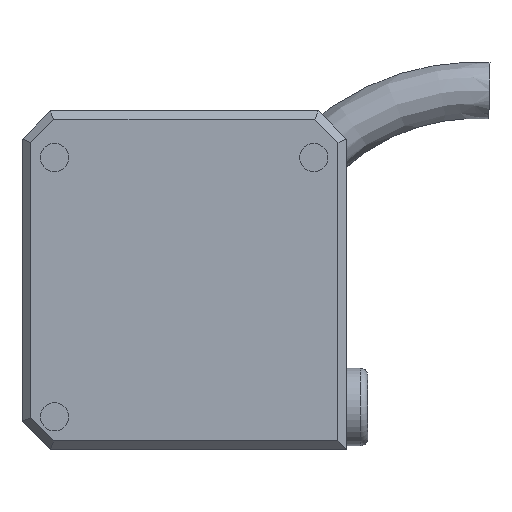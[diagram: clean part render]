
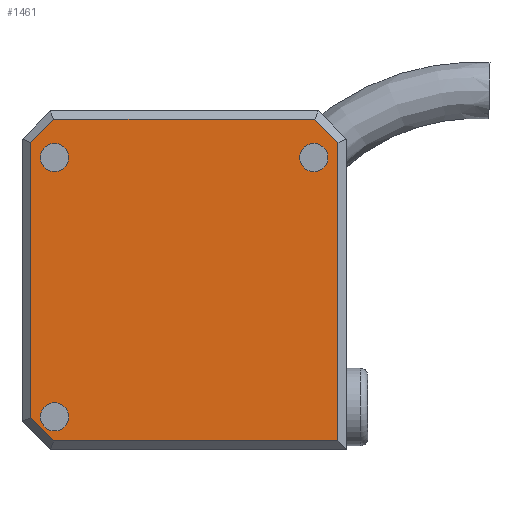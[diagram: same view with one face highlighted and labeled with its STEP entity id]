
A CAD part, front view. The second image highlights one B-rep face of the part: STEP entity #1461.
In plain terms, the highlighted planar face has unit normal (0, -1, 0).
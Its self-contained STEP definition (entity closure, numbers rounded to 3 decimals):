
#5 = VECTOR ( 'NONE', #183, 1000. ) ;
#12 = VERTEX_POINT ( 'NONE', #446 ) ;
#96 = CIRCLE ( 'NONE', #1003, 1. ) ;
#113 = EDGE_CURVE ( 'NONE', #1218, #580, #1539, .T. ) ;
#125 = CARTESIAN_POINT ( 'NONE',  ( 9.192, 0., 9.192 ) ) ;
#130 = ORIENTED_EDGE ( 'NONE', *, *, #211, .F. ) ;
#151 = LINE ( 'NONE', #1293, #228 ) ;
#164 = VECTOR ( 'NONE', #1515, 1000. ) ;
#167 = EDGE_LOOP ( 'NONE', ( #886, #1399 ) ) ;
#174 = CARTESIAN_POINT ( 'NONE',  ( 10.576, 0., 10.576 ) ) ;
#183 = DIRECTION ( 'NONE',  ( -0.707, 0., 0.707 ) ) ;
#205 = ORIENTED_EDGE ( 'NONE', *, *, #616, .T. ) ;
#211 = EDGE_CURVE ( 'NONE', #1274, #1556, #96, .T. ) ;
#212 = DIRECTION ( 'NONE',  ( 0., -1., 0. ) ) ;
#228 = VECTOR ( 'NONE', #530, 1000. ) ;
#264 = DIRECTION ( 'NONE',  ( 0., 0., -1. ) ) ;
#268 = VERTEX_POINT ( 'NONE', #856 ) ;
#286 = ORIENTED_EDGE ( 'NONE', *, *, #1107, .T. ) ;
#292 = CARTESIAN_POINT ( 'NONE',  ( 11.5, 0., -10.9 ) ) ;
#306 = CARTESIAN_POINT ( 'NONE',  ( -9.192, 0., -10.192 ) ) ;
#325 = AXIS2_PLACEMENT_3D ( 'NONE', #1137, #1243, #872 ) ;
#332 = DIRECTION ( 'NONE',  ( 0., 0., -1. ) ) ;
#346 = CARTESIAN_POINT ( 'NONE',  ( 9.192, 0., 8.192 ) ) ;
#353 = VECTOR ( 'NONE', #440, 1000. ) ;
#354 = CARTESIAN_POINT ( 'NONE',  ( -9.251, 0., -10.9 ) ) ;
#391 = AXIS2_PLACEMENT_3D ( 'NONE', #1299, #490, #860 ) ;
#395 = CIRCLE ( 'NONE', #1309, 1. ) ;
#428 = LINE ( 'NONE', #1554, #1246 ) ;
#440 = DIRECTION ( 'NONE',  ( 0., 0., -1. ) ) ;
#446 = CARTESIAN_POINT ( 'NONE',  ( -9.192, 0., 10.192 ) ) ;
#461 = FACE_BOUND ( 'NONE', #167, .T. ) ;
#473 = EDGE_CURVE ( 'NONE', #1255, #12, #875, .T. ) ;
#475 = VERTEX_POINT ( 'NONE', #970 ) ;
#483 = AXIS2_PLACEMENT_3D ( 'NONE', #705, #943, #1194 ) ;
#490 = DIRECTION ( 'NONE',  ( 0., 1., 0. ) ) ;
#521 = ORIENTED_EDGE ( 'NONE', *, *, #596, .T. ) ;
#530 = DIRECTION ( 'NONE',  ( -1., 0., 0. ) ) ;
#546 = VERTEX_POINT ( 'NONE', #738 ) ;
#580 = VERTEX_POINT ( 'NONE', #306 ) ;
#585 = CARTESIAN_POINT ( 'NONE',  ( -10.9, 0., -9.251 ) ) ;
#586 = ORIENTED_EDGE ( 'NONE', *, *, #1097, .T. ) ;
#596 = EDGE_CURVE ( 'NONE', #268, #1377, #1294, .T. ) ;
#616 = EDGE_CURVE ( 'NONE', #546, #1122, #1424, .T. ) ;
#660 = EDGE_LOOP ( 'NONE', ( #918, #1442 ) ) ;
#695 = DIRECTION ( 'NONE',  ( 0., 1., 0. ) ) ;
#696 = CARTESIAN_POINT ( 'NONE',  ( 9.192, 0., 10.192 ) ) ;
#705 = CARTESIAN_POINT ( 'NONE',  ( 0., 0., 0. ) ) ;
#738 = CARTESIAN_POINT ( 'NONE',  ( -9.251, 0., 11.9 ) ) ;
#750 = DIRECTION ( 'NONE',  ( 0., -1., 0. ) ) ;
#751 = EDGE_LOOP ( 'NONE', ( #1371, #130 ) ) ;
#784 = DIRECTION ( 'NONE',  ( 1., 0., 0. ) ) ;
#787 = DIRECTION ( 'NONE',  ( -0.707, 0., -0.707 ) ) ;
#830 = EDGE_CURVE ( 'NONE', #1529, #475, #997, .T. ) ;
#849 = EDGE_CURVE ( 'NONE', #12, #1255, #1001, .T. ) ;
#856 = CARTESIAN_POINT ( 'NONE',  ( 10.9, 0., 10.251 ) ) ;
#860 = DIRECTION ( 'NONE',  ( 0., 0., 1. ) ) ;
#872 = DIRECTION ( 'NONE',  ( 0., 0., 1. ) ) ;
#875 = CIRCLE ( 'NONE', #391, 1. ) ;
#886 = ORIENTED_EDGE ( 'NONE', *, *, #473, .T. ) ;
#890 = ORIENTED_EDGE ( 'NONE', *, *, #1103, .T. ) ;
#902 = CARTESIAN_POINT ( 'NONE',  ( -9.192, 0., -8.192 ) ) ;
#918 = ORIENTED_EDGE ( 'NONE', *, *, #1552, .T. ) ;
#932 = CARTESIAN_POINT ( 'NONE',  ( -9.192, 0., 8.192 ) ) ;
#943 = DIRECTION ( 'NONE',  ( 0., -1., 0. ) ) ;
#970 = CARTESIAN_POINT ( 'NONE',  ( 10.9, 0., -10.9 ) ) ;
#997 = LINE ( 'NONE', #292, #1587 ) ;
#1001 = CIRCLE ( 'NONE', #325, 1. ) ;
#1003 = AXIS2_PLACEMENT_3D ( 'NONE', #125, #750, #264 ) ;
#1026 = ORIENTED_EDGE ( 'NONE', *, *, #830, .T. ) ;
#1031 = CARTESIAN_POINT ( 'NONE',  ( -10.576, 0., 10.576 ) ) ;
#1038 = AXIS2_PLACEMENT_3D ( 'NONE', #1187, #695, #1324 ) ;
#1042 = CARTESIAN_POINT ( 'NONE',  ( -9.192, 0., -9.192 ) ) ;
#1053 = LINE ( 'NONE', #1401, #353 ) ;
#1091 = VECTOR ( 'NONE', #787, 1000. ) ;
#1097 = EDGE_CURVE ( 'NONE', #1377, #546, #151, .T. ) ;
#1103 = EDGE_CURVE ( 'NONE', #475, #268, #1415, .T. ) ;
#1107 = EDGE_CURVE ( 'NONE', #1122, #1304, #1053, .T. ) ;
#1122 = VERTEX_POINT ( 'NONE', #1422 ) ;
#1137 = CARTESIAN_POINT ( 'NONE',  ( -9.192, 0., 9.192 ) ) ;
#1187 = CARTESIAN_POINT ( 'NONE',  ( -9.192, 0., -9.192 ) ) ;
#1194 = DIRECTION ( 'NONE',  ( 0., 0., -1. ) ) ;
#1202 = FACE_BOUND ( 'NONE', #751, .T. ) ;
#1209 = CIRCLE ( 'NONE', #1375, 1. ) ;
#1218 = VERTEX_POINT ( 'NONE', #902 ) ;
#1222 = EDGE_CURVE ( 'NONE', #1304, #1529, #428, .T. ) ;
#1243 = DIRECTION ( 'NONE',  ( 0., 1., 0. ) ) ;
#1246 = VECTOR ( 'NONE', #1569, 1000. ) ;
#1255 = VERTEX_POINT ( 'NONE', #932 ) ;
#1270 = CARTESIAN_POINT ( 'NONE',  ( 10.9, 0., 10.5 ) ) ;
#1274 = VERTEX_POINT ( 'NONE', #696 ) ;
#1291 = EDGE_CURVE ( 'NONE', #1556, #1274, #395, .T. ) ;
#1293 = CARTESIAN_POINT ( 'NONE',  ( -9.5, 0., 11.9 ) ) ;
#1294 = LINE ( 'NONE', #174, #5 ) ;
#1296 = EDGE_LOOP ( 'NONE', ( #1298, #1026, #890, #521, #586, #205, #286 ) ) ;
#1298 = ORIENTED_EDGE ( 'NONE', *, *, #1222, .T. ) ;
#1299 = CARTESIAN_POINT ( 'NONE',  ( -9.192, 0., 9.192 ) ) ;
#1304 = VERTEX_POINT ( 'NONE', #585 ) ;
#1305 = FACE_BOUND ( 'NONE', #660, .T. ) ;
#1309 = AXIS2_PLACEMENT_3D ( 'NONE', #1559, #212, #332 ) ;
#1324 = DIRECTION ( 'NONE',  ( 0., 0., 1. ) ) ;
#1339 = DIRECTION ( 'NONE',  ( 0., 1., 0. ) ) ;
#1371 = ORIENTED_EDGE ( 'NONE', *, *, #1291, .F. ) ;
#1375 = AXIS2_PLACEMENT_3D ( 'NONE', #1042, #1339, #1453 ) ;
#1377 = VERTEX_POINT ( 'NONE', #1496 ) ;
#1399 = ORIENTED_EDGE ( 'NONE', *, *, #849, .T. ) ;
#1401 = CARTESIAN_POINT ( 'NONE',  ( -10.9, 0., -9.5 ) ) ;
#1415 = LINE ( 'NONE', #1270, #164 ) ;
#1422 = CARTESIAN_POINT ( 'NONE',  ( -10.9, 0., 10.251 ) ) ;
#1424 = LINE ( 'NONE', #1031, #1091 ) ;
#1435 = FACE_OUTER_BOUND ( 'NONE', #1296, .T. ) ;
#1442 = ORIENTED_EDGE ( 'NONE', *, *, #113, .T. ) ;
#1453 = DIRECTION ( 'NONE',  ( 0., 0., 1. ) ) ;
#1461 = ADVANCED_FACE ( 'NONE', ( #461, #1305, #1435, #1202 ), #1557, .T. ) ;
#1496 = CARTESIAN_POINT ( 'NONE',  ( 9.251, 0., 11.9 ) ) ;
#1515 = DIRECTION ( 'NONE',  ( 0., 0., 1. ) ) ;
#1529 = VERTEX_POINT ( 'NONE', #354 ) ;
#1539 = CIRCLE ( 'NONE', #1038, 1. ) ;
#1552 = EDGE_CURVE ( 'NONE', #580, #1218, #1209, .T. ) ;
#1554 = CARTESIAN_POINT ( 'NONE',  ( -10.076, 0., -10.076 ) ) ;
#1556 = VERTEX_POINT ( 'NONE', #346 ) ;
#1557 = PLANE ( 'NONE',  #483 ) ;
#1559 = CARTESIAN_POINT ( 'NONE',  ( 9.192, 0., 9.192 ) ) ;
#1569 = DIRECTION ( 'NONE',  ( 0.707, 0., -0.707 ) ) ;
#1587 = VECTOR ( 'NONE', #784, 1000. ) ;
